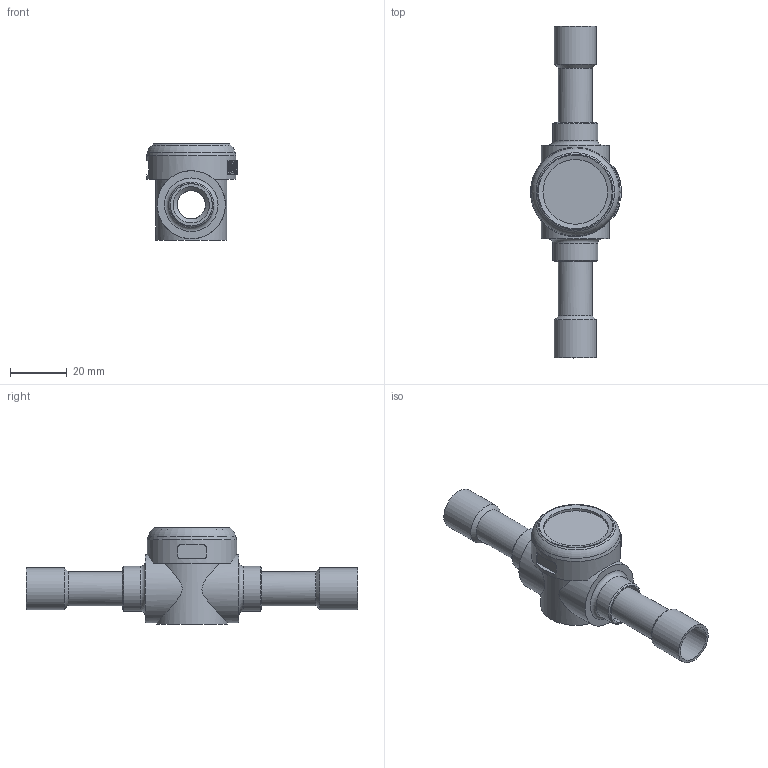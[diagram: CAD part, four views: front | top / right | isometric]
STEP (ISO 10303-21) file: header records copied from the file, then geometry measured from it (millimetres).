
FILE_DESCRIPTION(/* description */ (''),/* implementation_level */ '2;1');
FILE_NAME(/* name */ '3940_4',/* time_stamp */ '2009-03-25T10:21:47+01:00',/* author */ (''),/* organization */ (''),/* preprocessor_version */ 'ST-DEVELOPER v9',/* originating_system */ 'UGS - NX 4.0',/* authorisation */ '');
FILE_SCHEMA (('CONFIG_CONTROL_DESIGN'));
Length unit declared in the file: millimetre
Products named in the file (1): FColA9F81wm5
Bounding box: 32 x 117 x 34 mm (x, y, z)
Volume: 21757.2 mm3; surface area: 16096.4 mm2
Topology: 1 solids, 4 shells, 269 faces, 714 edges, 468 vertices
Faces by surface type: plane 121, cylinder 65, extrusion 51, cone 17, torus 15
Full cylindrical faces by diameter (mm): 10 x4, 12 x2, 12.8 x2, 14.8 x2, 15.9 x2, 17.9 x1, 18 x2, 18.9 x1, 19 x1, 20 x1, 22.8 x1, 24 x2, 25 x4, 25.2 x1, 25.835 x1, 25.836 x1, 31.5 x1
Entity records: 9963 total; most frequent: CARTESIAN_POINT 3681, ORIENTED_EDGE 1284, DIRECTION 1156, EDGE_CURVE 642, VERTEX_POINT 449, AXIS2_PLACEMENT_3D 403, EDGE_LOOP 361, VECTOR 350
